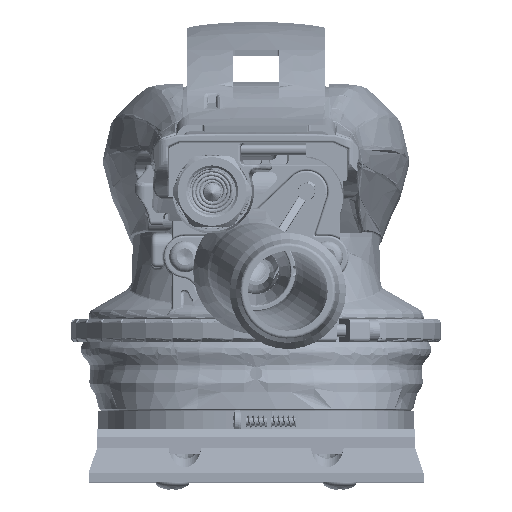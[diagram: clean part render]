
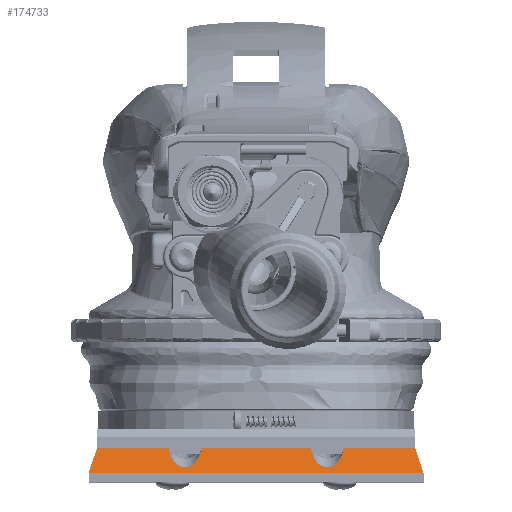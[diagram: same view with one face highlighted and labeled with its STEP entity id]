
A CAD part, top view. The second image highlights one B-rep face of the part: STEP entity #174733.
In plain terms, the highlighted planar face has unit normal (0, 0.316, 0.949) as drawn and (0.949, 0.316, 0) by its records, which use the part's own axes.
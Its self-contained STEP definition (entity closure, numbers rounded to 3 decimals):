
#169936=DIRECTION('',(-0.302,0.905,0.302));
#169937=VECTOR('',#169936,6.633);
#169938=CARTESIAN_POINT('',(66.,2.,
-40.));
#169939=LINE('',#169938,#169937);
#170026=CARTESIAN_POINT('',(64.,8.,
-13.092));
#170060=CARTESIAN_POINT('',(64.,8.,
20.908));
#170796=DIRECTION('',(0.,0.,-1.));
#170797=VECTOR('',#170796,17.092);
#170798=CARTESIAN_POINT('',(64.,8.,
-20.908));
#170799=LINE('',#170798,#170797);
#170800=DIRECTION('',(0.,0.,-1.));
#170801=VECTOR('',#170800,17.092);
#170802=CARTESIAN_POINT('',(64.,8.,
38.));
#170803=LINE('',#170802,#170801);
#170804=CARTESIAN_POINT('',(65.5,3.5,
17.));
#170805=CARTESIAN_POINT('',(65.5,3.5,
16.88));
#170806=CARTESIAN_POINT('',(65.495,3.516,
16.638));
#170807=CARTESIAN_POINT('',(65.471,3.586,
16.276));
#170808=CARTESIAN_POINT('',(65.431,3.707,
15.91));
#170809=CARTESIAN_POINT('',(65.372,3.884,
15.542));
#170810=CARTESIAN_POINT('',(65.293,4.12,
15.173));
#170811=CARTESIAN_POINT('',(65.192,4.425,
14.804));
#170812=CARTESIAN_POINT('',(65.064,4.807,
14.441));
#170813=CARTESIAN_POINT('',(64.909,5.272,
14.092));
#170814=CARTESIAN_POINT('',(64.725,5.826,
13.766));
#170815=CARTESIAN_POINT('',(64.51,6.471,
13.478));
#170816=CARTESIAN_POINT('',(64.267,7.198,
13.244));
#170817=CARTESIAN_POINT('',(64.092,7.725,
13.134));
#170818=CARTESIAN_POINT('',(64.,8.,
13.092));
#170820=DIRECTION('',(0.,0.,-1.));
#170821=VECTOR('',#170820,26.184);
#170822=CARTESIAN_POINT('',(64.,8.,
13.092));
#170823=LINE('',#170822,#170821);
#170824=DIRECTION('',(0.,0.,-1.));
#170825=VECTOR('',#170824,80.);
#170826=CARTESIAN_POINT('',(66.,2.,
40.));
#170827=LINE('',#170826,#170825);
#171741=DIRECTION('',(0.302,-0.905,0.302));
#171742=VECTOR('',#171741,6.633);
#171743=CARTESIAN_POINT('',(64.,8.,
38.));
#171744=LINE('',#171743,#171742);
#172500=CARTESIAN_POINT('',(65.5,3.5,
17.));
#172501=CARTESIAN_POINT('',(65.5,3.5,
17.334));
#172502=CARTESIAN_POINT('',(65.463,3.61,
17.901));
#172503=CARTESIAN_POINT('',(65.314,4.057,
18.829));
#172504=CARTESIAN_POINT('',(65.03,4.909,
19.722));
#172505=CARTESIAN_POINT('',(64.581,6.258,
20.494));
#172506=CARTESIAN_POINT('',(64.209,7.373,
20.812));
#172507=CARTESIAN_POINT('',(64.,8.,
20.908));
#172629=CARTESIAN_POINT('',(65.5,3.5,
-17.));
#172630=CARTESIAN_POINT('',(65.5,3.5,
-16.88));
#172631=CARTESIAN_POINT('',(65.495,3.516,
-16.638));
#172632=CARTESIAN_POINT('',(65.471,3.586,
-16.275));
#172633=CARTESIAN_POINT('',(65.431,3.707,
-15.91));
#172634=CARTESIAN_POINT('',(65.372,3.884,
-15.542));
#172635=CARTESIAN_POINT('',(65.293,4.12,
-15.173));
#172636=CARTESIAN_POINT('',(65.192,4.425,
-14.804));
#172637=CARTESIAN_POINT('',(65.064,4.807,
-14.441));
#172638=CARTESIAN_POINT('',(64.909,5.272,
-14.092));
#172639=CARTESIAN_POINT('',(64.725,5.826,
-13.766));
#172640=CARTESIAN_POINT('',(64.51,6.471,
-13.478));
#172641=CARTESIAN_POINT('',(64.267,7.198,
-13.244));
#172642=CARTESIAN_POINT('',(64.092,7.725,
-13.134));
#172643=CARTESIAN_POINT('',(64.,8.,
-13.092));
#172757=CARTESIAN_POINT('',(64.,8.,
-20.908));
#172758=CARTESIAN_POINT('',(64.209,7.373,
-20.812));
#172759=CARTESIAN_POINT('',(64.581,6.258,
-20.494));
#172760=CARTESIAN_POINT('',(65.03,4.909,
-19.722));
#172761=CARTESIAN_POINT('',(65.314,4.057,
-18.829));
#172762=CARTESIAN_POINT('',(65.463,3.61,
-17.901));
#172763=CARTESIAN_POINT('',(65.5,3.5,
-17.334));
#172764=CARTESIAN_POINT('',(65.5,3.5,
-17.));
#173548=CARTESIAN_POINT('',(66.,2.,
-40.));
#173549=VERTEX_POINT('',#173548);
#173550=CARTESIAN_POINT('',(64.,8.,
-38.));
#173551=VERTEX_POINT('',#173550);
#173554=CARTESIAN_POINT('',(64.,8.,
-20.908));
#173555=VERTEX_POINT('',#173554);
#173557=VERTEX_POINT('',#170026);
#173558=CARTESIAN_POINT('',(64.,8.,
13.092));
#173559=VERTEX_POINT('',#173558);
#173561=VERTEX_POINT('',#170060);
#173562=CARTESIAN_POINT('',(64.,8.,
38.));
#173563=VERTEX_POINT('',#173562);
#173968=CARTESIAN_POINT('',(66.,2.,
40.));
#173969=VERTEX_POINT('',#173968);
#173970=VERTEX_POINT('',#172500);
#173971=VERTEX_POINT('',#172629);
#174710=CARTESIAN_POINT('',(65.,5.,0.));
#174711=DIRECTION('',(0.949,0.316,0.));
#174712=DIRECTION('',(0.316,-0.949,0.));
#174713=AXIS2_PLACEMENT_3D('',#174710,#174711,#174712);
#174714=PLANE('',#174713);
#174715=ORIENTED_EDGE('',*,*,#174277,.T.);
#174716=ORIENTED_EDGE('',*,*,#174246,.F.);
#174718=ORIENTED_EDGE('',*,*,#174717,.F.);
#174720=ORIENTED_EDGE('',*,*,#174719,.F.);
#174721=ORIENTED_EDGE('',*,*,#174289,.T.);
#174723=ORIENTED_EDGE('',*,*,#174722,.F.);
#174725=ORIENTED_EDGE('',*,*,#174724,.T.);
#174726=ORIENTED_EDGE('',*,*,#174283,.T.);
#174728=ORIENTED_EDGE('',*,*,#174727,.F.);
#174730=ORIENTED_EDGE('',*,*,#174729,.F.);
#174731=EDGE_LOOP('',(#174715,#174716,#174718,#174720,#174721,#174723,#174725,
#174726,#174728,#174730));
#174732=FACE_OUTER_BOUND('',#174731,.F.);
#174733=ADVANCED_FACE('',(#174732),#174714,.T.);
#170819=B_SPLINE_CURVE_WITH_KNOTS('',3,(#170804,#170805,#170806,#170807,#170808,
#170809,#170810,#170811,#170812,#170813,#170814,#170815,#170816,#170817,
#170818),.UNSPECIFIED.,.F.,.F.,(4,1,1,1,1,1,1,1,1,1,1,1,4),(0.,
0.083,0.167,0.25,0.333,0.417,
0.5,0.583,0.667,0.75,0.833,
0.917,1.),.UNSPECIFIED.);
#172508=B_SPLINE_CURVE_WITH_KNOTS('',3,(#172500,#172501,#172502,#172503,#172504,
#172505,#172506,#172507),.UNSPECIFIED.,.F.,.F.,(4,1,1,1,1,4),(0.,0.125,
0.25,0.5,0.75,1.),.UNSPECIFIED.);
#172644=B_SPLINE_CURVE_WITH_KNOTS('',3,(#172629,#172630,#172631,#172632,#172633,
#172634,#172635,#172636,#172637,#172638,#172639,#172640,#172641,#172642,
#172643),.UNSPECIFIED.,.F.,.F.,(4,1,1,1,1,1,1,1,1,1,1,1,4),(0.,
0.083,0.167,0.25,0.333,0.417,
0.5,0.583,0.667,0.75,0.833,
0.917,1.),.UNSPECIFIED.);
#172765=B_SPLINE_CURVE_WITH_KNOTS('',3,(#172757,#172758,#172759,#172760,#172761,
#172762,#172763,#172764),.UNSPECIFIED.,.F.,.F.,(4,1,1,1,1,4),(0.,0.25,0.5,
0.75,0.875,1.),.UNSPECIFIED.);
#174246=EDGE_CURVE('',#173549,#173551,#169939,.T.);
#174277=EDGE_CURVE('',#173555,#173551,#170799,.T.);
#174283=EDGE_CURVE('',#173559,#173557,#170823,.T.);
#174289=EDGE_CURVE('',#173563,#173561,#170803,.T.);
#174717=EDGE_CURVE('',#173969,#173549,#170827,.T.);
#174719=EDGE_CURVE('',#173563,#173969,#171744,.T.);
#174722=EDGE_CURVE('',#173970,#173561,#172508,.T.);
#174724=EDGE_CURVE('',#173970,#173559,#170819,.T.);
#174727=EDGE_CURVE('',#173971,#173557,#172644,.T.);
#174729=EDGE_CURVE('',#173555,#173971,#172765,.T.);
